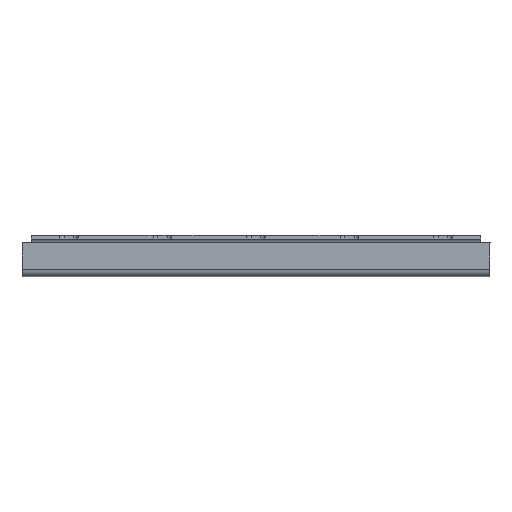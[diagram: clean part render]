
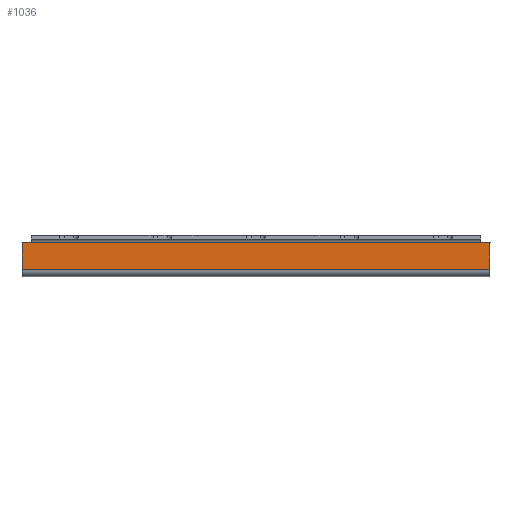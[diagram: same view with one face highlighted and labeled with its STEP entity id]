
A CAD part, front view. The second image highlights one B-rep face of the part: STEP entity #1036.
In plain terms, the highlighted planar face has unit normal (0, -1, 0).
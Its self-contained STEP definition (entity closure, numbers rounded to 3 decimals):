
#341 = CARTESIAN_POINT ( 'NONE',  ( 125., -52., 16. ) ) ;
#403 = VERTEX_POINT ( 'NONE', #915 ) ;
#445 = CARTESIAN_POINT ( 'NONE',  ( -125., -52., 20. ) ) ;
#476 = EDGE_CURVE ( 'NONE', #1876, #3011, #635, .T. ) ;
#511 = LINE ( 'NONE', #1924, #2624 ) ;
#635 = LINE ( 'NONE', #930, #1621 ) ;
#655 = DIRECTION ( 'NONE',  ( -1., 0., 0. ) ) ;
#742 = CARTESIAN_POINT ( 'NONE',  ( 125., -52., 2. ) ) ;
#815 = DIRECTION ( 'NONE',  ( 1., 0., 0. ) ) ;
#905 = CARTESIAN_POINT ( 'NONE',  ( 120., -52., 16. ) ) ;
#915 = CARTESIAN_POINT ( 'NONE',  ( -125., -52., 16. ) ) ;
#930 = CARTESIAN_POINT ( 'NONE',  ( 125., -52., 16. ) ) ;
#981 = EDGE_CURVE ( 'NONE', #403, #3011, #1763, .T. ) ;
#1018 = DIRECTION ( 'NONE',  ( -1., 0., 0. ) ) ;
#1036 = ADVANCED_FACE ( 'NONE', ( #1648 ), #1121, .T. ) ;
#1042 = DIRECTION ( 'NONE',  ( 0., 0., -1. ) ) ;
#1072 = EDGE_CURVE ( 'NONE', #403, #2084, #2060, .T. ) ;
#1121 = PLANE ( 'NONE',  #2756 ) ;
#1184 = EDGE_CURVE ( 'NONE', #2381, #2084, #1215, .T. ) ;
#1190 = DIRECTION ( 'NONE',  ( 0., 0., 1. ) ) ;
#1196 = ORIENTED_EDGE ( 'NONE', *, *, #981, .F. ) ;
#1215 = LINE ( 'NONE', #1967, #1727 ) ;
#1304 = ORIENTED_EDGE ( 'NONE', *, *, #476, .T. ) ;
#1318 = CARTESIAN_POINT ( 'NONE',  ( -125., -52., 2. ) ) ;
#1336 = ORIENTED_EDGE ( 'NONE', *, *, #1956, .F. ) ;
#1385 = DIRECTION ( 'NONE',  ( 0., 0., -1. ) ) ;
#1512 = DIRECTION ( 'NONE',  ( -1., 0., 0. ) ) ;
#1539 = ORIENTED_EDGE ( 'NONE', *, *, #1184, .F. ) ;
#1621 = VECTOR ( 'NONE', #655, 1000. ) ;
#1648 = FACE_OUTER_BOUND ( 'NONE', #3038, .T. ) ;
#1727 = VECTOR ( 'NONE', #1018, 1000. ) ;
#1763 = LINE ( 'NONE', #2033, #2469 ) ;
#1786 = CARTESIAN_POINT ( 'NONE',  ( 125., -52., 16. ) ) ;
#1804 = LINE ( 'NONE', #341, #2229 ) ;
#1807 = VERTEX_POINT ( 'NONE', #1786 ) ;
#1876 = VERTEX_POINT ( 'NONE', #905 ) ;
#1879 = CARTESIAN_POINT ( 'NONE',  ( 125., -52., 20. ) ) ;
#1924 = CARTESIAN_POINT ( 'NONE',  ( 125., -52., 20. ) ) ;
#1956 = EDGE_CURVE ( 'NONE', #1807, #2381, #511, .T. ) ;
#1967 = CARTESIAN_POINT ( 'NONE',  ( 125., -52., 2. ) ) ;
#2033 = CARTESIAN_POINT ( 'NONE',  ( 125., -52., 16. ) ) ;
#2039 = ORIENTED_EDGE ( 'NONE', *, *, #2948, .T. ) ;
#2060 = LINE ( 'NONE', #445, #2906 ) ;
#2084 = VERTEX_POINT ( 'NONE', #1318 ) ;
#2200 = CARTESIAN_POINT ( 'NONE',  ( -120., -52., 16. ) ) ;
#2229 = VECTOR ( 'NONE', #1512, 1000. ) ;
#2381 = VERTEX_POINT ( 'NONE', #742 ) ;
#2469 = VECTOR ( 'NONE', #815, 1000. ) ;
#2572 = DIRECTION ( 'NONE',  ( 0., -1., 0. ) ) ;
#2624 = VECTOR ( 'NONE', #1042, 1000. ) ;
#2756 = AXIS2_PLACEMENT_3D ( 'NONE', #1879, #2572, #1190 ) ;
#2839 = ORIENTED_EDGE ( 'NONE', *, *, #1072, .T. ) ;
#2906 = VECTOR ( 'NONE', #1385, 1000. ) ;
#2948 = EDGE_CURVE ( 'NONE', #1807, #1876, #1804, .T. ) ;
#3011 = VERTEX_POINT ( 'NONE', #2200 ) ;
#3038 = EDGE_LOOP ( 'NONE', ( #2839, #1539, #1336, #2039, #1304, #1196 ) ) ;
